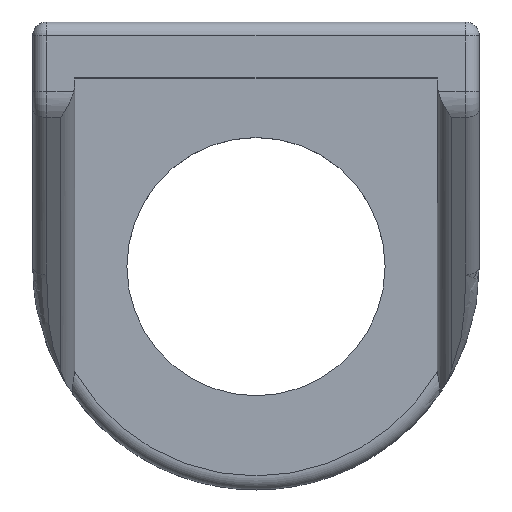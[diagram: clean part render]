
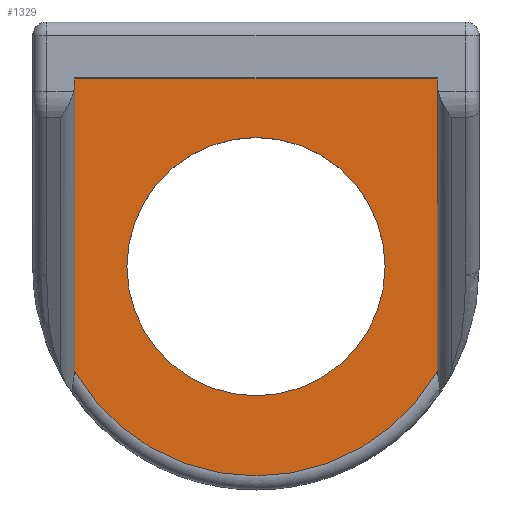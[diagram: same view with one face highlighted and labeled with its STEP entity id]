
A CAD part, top view. The second image highlights one B-rep face of the part: STEP entity #1329.
In plain terms, the highlighted planar face has unit normal (0, 0, 1).
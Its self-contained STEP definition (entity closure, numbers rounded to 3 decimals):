
#13 = CARTESIAN_POINT ( 'NONE',  ( -13., -7.376, 4. ) ) ;
#19 =( BOUNDED_CURVE ( )  B_SPLINE_CURVE ( 3, ( #745, #1385, #423, #517 ),
 .UNSPECIFIED., .F., .F. ) 
 B_SPLINE_CURVE_WITH_KNOTS ( ( 4, 4 ),
 ( 4.648, 4.712 ),
 .UNSPECIFIED. ) 
 CURVE ( )  GEOMETRIC_REPRESENTATION_ITEM ( )  RATIONAL_B_SPLINE_CURVE ( ( 1., 1., 1., 1. ) ) 
 REPRESENTATION_ITEM ( '' )  );
#57 = VERTEX_POINT ( 'NONE', #1280 ) ;
#59 = DIRECTION ( 'NONE',  ( -1., 0., 0. ) ) ;
#67 = ORIENTED_EDGE ( 'NONE', *, *, #372, .T. ) ;
#84 = CARTESIAN_POINT ( 'NONE',  ( -13., 13.5, 4. ) ) ;
#91 = ORIENTED_EDGE ( 'NONE', *, *, #527, .T. ) ;
#106 = LINE ( 'NONE', #1016, #389 ) ;
#169 = CARTESIAN_POINT ( 'NONE',  ( 13., 13.5, 4. ) ) ;
#170 = ORIENTED_EDGE ( 'NONE', *, *, #485, .T. ) ;
#173 = DIRECTION ( 'NONE',  ( -1., 0., 0. ) ) ;
#178 = VERTEX_POINT ( 'NONE', #956 ) ;
#188 = VECTOR ( 'NONE', #712, 1000. ) ;
#191 = LINE ( 'NONE', #84, #971 ) ;
#229 = AXIS2_PLACEMENT_3D ( 'NONE', #1308, #725, #173 ) ;
#263 = EDGE_CURVE ( 'NONE', #638, #839, #663, .T. ) ;
#274 = DIRECTION ( 'NONE',  ( 0., 0., -1. ) ) ;
#276 = DIRECTION ( 'NONE',  ( -1., 0., 0. ) ) ;
#299 = FACE_OUTER_BOUND ( 'NONE', #685, .T. ) ;
#319 = AXIS2_PLACEMENT_3D ( 'NONE', #921, #274, #59 ) ;
#322 = ORIENTED_EDGE ( 'NONE', *, *, #483, .T. ) ;
#348 = EDGE_CURVE ( 'NONE', #552, #949, #1343, .T. ) ;
#372 = EDGE_CURVE ( 'NONE', #178, #178, #648, .T. ) ;
#374 = CARTESIAN_POINT ( 'NONE',  ( -13.002, -7.48, 4. ) ) ;
#378 = CARTESIAN_POINT ( 'NONE',  ( -13.001, -7.445, 4. ) ) ;
#389 = VECTOR ( 'NONE', #792, 1000. ) ;
#395 = CARTESIAN_POINT ( 'NONE',  ( 13.002, -7.48, 4. ) ) ;
#423 = CARTESIAN_POINT ( 'NONE',  ( 13., -7.41, 4. ) ) ;
#453 = CARTESIAN_POINT ( 'NONE',  ( 13., -7.376, 4. ) ) ;
#469 = CARTESIAN_POINT ( 'NONE',  ( -13., -7.41, 4. ) ) ;
#483 = EDGE_CURVE ( 'NONE', #839, #753, #511, .T. ) ;
#485 = EDGE_CURVE ( 'NONE', #753, #552, #19, .T. ) ;
#490 = CARTESIAN_POINT ( 'NONE',  ( -13., -7.376, 4. ) ) ;
#511 = CIRCLE ( 'NONE', #229, 15. ) ;
#517 = CARTESIAN_POINT ( 'NONE',  ( 13., -7.376, 4. ) ) ;
#527 = EDGE_CURVE ( 'NONE', #57, #638, #191, .T. ) ;
#552 = VERTEX_POINT ( 'NONE', #453 ) ;
#587 = EDGE_CURVE ( 'NONE', #949, #57, #106, .T. ) ;
#604 = CARTESIAN_POINT ( 'NONE',  ( 13., 13.5, 4. ) ) ;
#638 = VERTEX_POINT ( 'NONE', #13 ) ;
#648 = CIRCLE ( 'NONE', #319, 9.25 ) ;
#663 =( BOUNDED_CURVE ( )  B_SPLINE_CURVE ( 3, ( #490, #469, #378, #374 ),
 .UNSPECIFIED., .F., .F. ) 
 B_SPLINE_CURVE_WITH_KNOTS ( ( 4, 4 ),
 ( 4.712, 4.776 ),
 .UNSPECIFIED. ) 
 CURVE ( )  GEOMETRIC_REPRESENTATION_ITEM ( )  RATIONAL_B_SPLINE_CURVE ( ( 1., 1., 1., 1. ) ) 
 REPRESENTATION_ITEM ( '' )  );
#685 = EDGE_LOOP ( 'NONE', ( #91, #750, #322, #170, #1138, #698 ) ) ;
#698 = ORIENTED_EDGE ( 'NONE', *, *, #587, .T. ) ;
#712 = DIRECTION ( 'NONE',  ( 0., 1., 0. ) ) ;
#725 = DIRECTION ( 'NONE',  ( 0., 0., 1. ) ) ;
#745 = CARTESIAN_POINT ( 'NONE',  ( 13.002, -7.48, 4. ) ) ;
#750 = ORIENTED_EDGE ( 'NONE', *, *, #263, .T. ) ;
#753 = VERTEX_POINT ( 'NONE', #395 ) ;
#792 = DIRECTION ( 'NONE',  ( -1., 0., 0. ) ) ;
#839 = VERTEX_POINT ( 'NONE', #1006 ) ;
#921 = CARTESIAN_POINT ( 'NONE',  ( 0., 0., 4. ) ) ;
#949 = VERTEX_POINT ( 'NONE', #169 ) ;
#956 = CARTESIAN_POINT ( 'NONE',  ( -9.25, 0., 4. ) ) ;
#970 = DIRECTION ( 'NONE',  ( 0., -1., 0. ) ) ;
#971 = VECTOR ( 'NONE', #970, 1000. ) ;
#1006 = CARTESIAN_POINT ( 'NONE',  ( -13.002, -7.48, 4. ) ) ;
#1016 = CARTESIAN_POINT ( 'NONE',  ( -13., 13.5, 4. ) ) ;
#1138 = ORIENTED_EDGE ( 'NONE', *, *, #348, .T. ) ;
#1158 = DIRECTION ( 'NONE',  ( 0., 0., -1. ) ) ;
#1164 = FACE_BOUND ( 'NONE', #1267, .T. ) ;
#1267 = EDGE_LOOP ( 'NONE', ( #67 ) ) ;
#1273 = PLANE ( 'NONE',  #1297 ) ;
#1280 = CARTESIAN_POINT ( 'NONE',  ( -13., 13.5, 4. ) ) ;
#1297 = AXIS2_PLACEMENT_3D ( 'NONE', #1378, #1158, #276 ) ;
#1308 = CARTESIAN_POINT ( 'NONE',  ( 0., 0., 4. ) ) ;
#1329 = ADVANCED_FACE ( 'NONE', ( #1164, #299 ), #1273, .F. ) ;
#1343 = LINE ( 'NONE', #604, #188 ) ;
#1378 = CARTESIAN_POINT ( 'NONE',  ( 0., 0., 4. ) ) ;
#1385 = CARTESIAN_POINT ( 'NONE',  ( 13.001, -7.445, 4. ) ) ;
